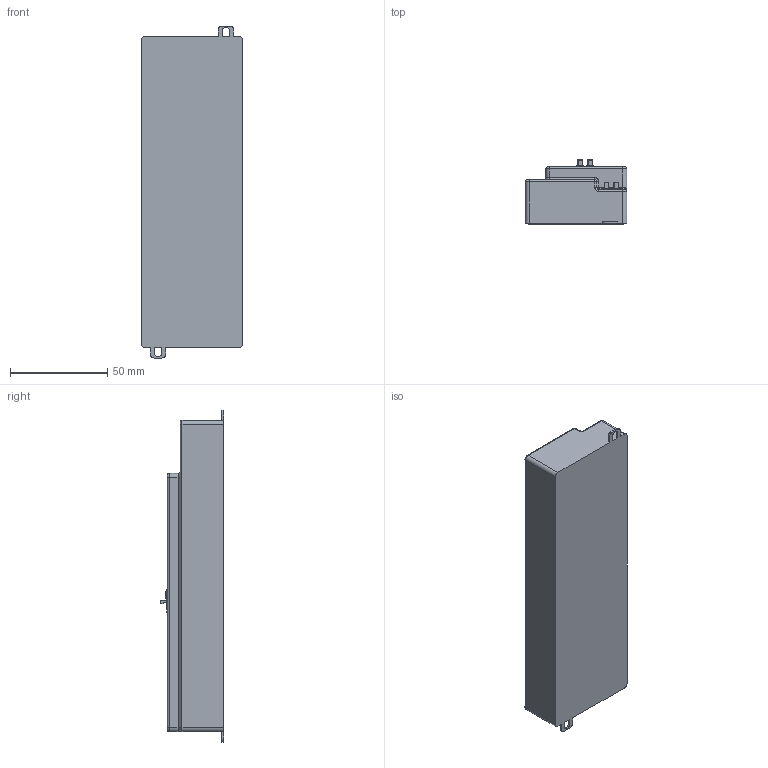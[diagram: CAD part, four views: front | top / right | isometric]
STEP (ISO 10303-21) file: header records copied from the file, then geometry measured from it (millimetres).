
FILE_DESCRIPTION(/* description */ (''),/* implementation_level */ '2;1');
FILE_NAME(/* name */ 'EN32.stp',/* time_stamp */ '2022-01-13T19:39:57+08:00',/* author */ (''),/* organization */ (''),/* preprocessor_version */ 'ST-DEVELOPER v16',/* originating_system */ 'SIEMENS PLM Software NX 10.0',/* authorisation */ '');
FILE_SCHEMA (('AP203_CONFIGURATION_CONTROLLED_3D_DESIGN_OF_MECHANICAL_PARTS_AND_ASSEMBLIES_MIM_LF { 1 0 10303 403 2 1 2}'));
Products named in the file (1): 73494C981A9Cmmg5
Bounding box: 52.4 x 32.88 x 171.1 mm (x, y, z)
Volume: 143495.5 mm3; surface area: 94065.5 mm2
Topology: 37 solids, 39 shells, 5633 faces, 14957 edges, 9509 vertices
Faces by surface type: plane 4933, cylinder 576, torus 57, bspline 41, sphere 26
Entity records: 172868 total; most frequent: CARTESIAN_POINT 32314, ORIENTED_EDGE 29866, DIRECTION 27178, EDGE_CURVE 14933, LINE 13560, VECTOR 13560, VERTEX_POINT 9509, AXIS2_PLACEMENT_3D 6809
